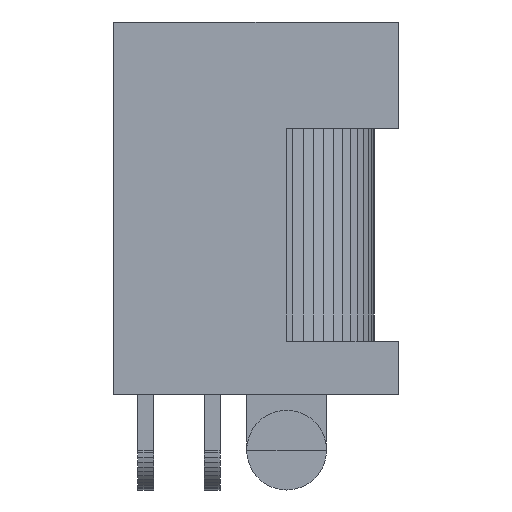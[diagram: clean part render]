
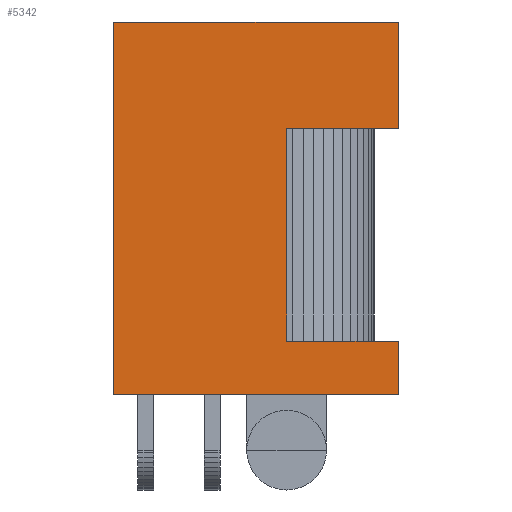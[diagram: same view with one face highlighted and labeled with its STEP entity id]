
A CAD part, front view. The second image highlights one B-rep face of the part: STEP entity #5342.
In plain terms, the highlighted planar face has unit normal (0, -1, 0).
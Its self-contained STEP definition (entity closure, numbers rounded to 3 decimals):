
#1202 = PLANE('',#1203);
#1203 = AXIS2_PLACEMENT_3D('',#1204,#1205,#1206);
#1204 = CARTESIAN_POINT('',(-6.5,-4.5,0.));
#1205 = DIRECTION('',(0.,0.,1.));
#1206 = DIRECTION('',(1.,0.,0.));
#2392 = VERTEX_POINT('',#2393);
#2393 = CARTESIAN_POINT('',(-6.5,-4.5,0.));
#2409 = PLANE('',#2410);
#2410 = AXIS2_PLACEMENT_3D('',#2411,#2412,#2413);
#2411 = CARTESIAN_POINT('',(-6.5,-4.5,0.));
#2412 = DIRECTION('',(1.,0.,0.));
#2413 = DIRECTION('',(0.,0.,1.));
#2421 = EDGE_CURVE('',#2392,#2422,#2424,.T.);
#2422 = VERTEX_POINT('',#2423);
#2423 = CARTESIAN_POINT('',(4.2,-4.5,0.));
#2424 = SURFACE_CURVE('',#2425,(#2429,#2436),.PCURVE_S1.);
#2425 = LINE('',#2426,#2427);
#2426 = CARTESIAN_POINT('',(-6.5,-4.5,0.));
#2427 = VECTOR('',#2428,1.);
#2428 = DIRECTION('',(1.,0.,0.));
#2429 = PCURVE('',#1202,#2430);
#2430 = DEFINITIONAL_REPRESENTATION('',(#2431),#2435);
#2431 = LINE('',#2432,#2433);
#2432 = CARTESIAN_POINT('',(0.,0.));
#2433 = VECTOR('',#2434,1.);
#2434 = DIRECTION('',(1.,0.));
#2435 = ( GEOMETRIC_REPRESENTATION_CONTEXT(2) 
PARAMETRIC_REPRESENTATION_CONTEXT() REPRESENTATION_CONTEXT('2D SPACE',''
  ) );
#2436 = PCURVE('',#2437,#2442);
#2437 = PLANE('',#2438);
#2438 = AXIS2_PLACEMENT_3D('',#2439,#2440,#2441);
#2439 = CARTESIAN_POINT('',(-6.5,-4.5,0.));
#2440 = DIRECTION('',(0.,1.,0.));
#2441 = DIRECTION('',(0.,0.,1.));
#2442 = DEFINITIONAL_REPRESENTATION('',(#2443),#2447);
#2443 = LINE('',#2444,#2445);
#2444 = CARTESIAN_POINT('',(0.,0.));
#2445 = VECTOR('',#2446,1.);
#2446 = DIRECTION('',(0.,1.));
#2447 = ( GEOMETRIC_REPRESENTATION_CONTEXT(2) 
PARAMETRIC_REPRESENTATION_CONTEXT() REPRESENTATION_CONTEXT('2D SPACE',''
  ) );
#2465 = PLANE('',#2466);
#2466 = AXIS2_PLACEMENT_3D('',#2467,#2468,#2469);
#2467 = CARTESIAN_POINT('',(4.2,-4.5,0.));
#2468 = DIRECTION('',(1.,0.,0.));
#2469 = DIRECTION('',(0.,0.,1.));
#5009 = EDGE_CURVE('',#2392,#5010,#5012,.T.);
#5010 = VERTEX_POINT('',#5011);
#5011 = CARTESIAN_POINT('',(-6.5,-4.5,14.));
#5012 = SURFACE_CURVE('',#5013,(#5017,#5024),.PCURVE_S1.);
#5013 = LINE('',#5014,#5015);
#5014 = CARTESIAN_POINT('',(-6.5,-4.5,0.));
#5015 = VECTOR('',#5016,1.);
#5016 = DIRECTION('',(0.,0.,1.));
#5017 = PCURVE('',#2409,#5018);
#5018 = DEFINITIONAL_REPRESENTATION('',(#5019),#5023);
#5019 = LINE('',#5020,#5021);
#5020 = CARTESIAN_POINT('',(0.,0.));
#5021 = VECTOR('',#5022,1.);
#5022 = DIRECTION('',(1.,0.));
#5023 = ( GEOMETRIC_REPRESENTATION_CONTEXT(2) 
PARAMETRIC_REPRESENTATION_CONTEXT() REPRESENTATION_CONTEXT('2D SPACE',''
  ) );
#5024 = PCURVE('',#2437,#5025);
#5025 = DEFINITIONAL_REPRESENTATION('',(#5026),#5030);
#5026 = LINE('',#5027,#5028);
#5027 = CARTESIAN_POINT('',(0.,0.));
#5028 = VECTOR('',#5029,1.);
#5029 = DIRECTION('',(1.,0.));
#5030 = ( GEOMETRIC_REPRESENTATION_CONTEXT(2) 
PARAMETRIC_REPRESENTATION_CONTEXT() REPRESENTATION_CONTEXT('2D SPACE',''
  ) );
#5070 = PLANE('',#5071);
#5071 = AXIS2_PLACEMENT_3D('',#5072,#5073,#5074);
#5072 = CARTESIAN_POINT('',(-6.5,-4.5,14.));
#5073 = DIRECTION('',(0.,0.,1.));
#5074 = DIRECTION('',(1.,0.,0.));
#5255 = PLANE('',#5256);
#5256 = AXIS2_PLACEMENT_3D('',#5257,#5258,#5259);
#5257 = CARTESIAN_POINT('',(4.2,-4.5,0.));
#5258 = DIRECTION('',(1.,0.,0.));
#5259 = DIRECTION('',(0.,0.,1.));
#5282 = PLANE('',#5283);
#5283 = AXIS2_PLACEMENT_3D('',#5284,#5285,#5286);
#5284 = CARTESIAN_POINT('',(0.,-5.,10.));
#5285 = DIRECTION('',(0.,0.,1.));
#5286 = DIRECTION('',(1.,0.,0.));
#5332 = PLANE('',#5333);
#5333 = AXIS2_PLACEMENT_3D('',#5334,#5335,#5336);
#5334 = CARTESIAN_POINT('',(0.,-5.,2.));
#5335 = DIRECTION('',(0.,0.,1.));
#5336 = DIRECTION('',(1.,0.,0.));
#5342 = ADVANCED_FACE('',(#5343),#2437,.F.);
#5343 = FACE_BOUND('',#5344,.F.);
#5344 = EDGE_LOOP('',(#5345,#5368,#5369,#5370,#5393,#5416,#5437,#5463));
#5345 = ORIENTED_EDGE('',*,*,#5346,.F.);
#5346 = EDGE_CURVE('',#2422,#5347,#5349,.T.);
#5347 = VERTEX_POINT('',#5348);
#5348 = CARTESIAN_POINT('',(4.2,-4.5,2.));
#5349 = SURFACE_CURVE('',#5350,(#5354,#5361),.PCURVE_S1.);
#5350 = LINE('',#5351,#5352);
#5351 = CARTESIAN_POINT('',(4.2,-4.5,0.));
#5352 = VECTOR('',#5353,1.);
#5353 = DIRECTION('',(0.,0.,1.));
#5354 = PCURVE('',#2437,#5355);
#5355 = DEFINITIONAL_REPRESENTATION('',(#5356),#5360);
#5356 = LINE('',#5357,#5358);
#5357 = CARTESIAN_POINT('',(0.,10.7));
#5358 = VECTOR('',#5359,1.);
#5359 = DIRECTION('',(1.,0.));
#5360 = ( GEOMETRIC_REPRESENTATION_CONTEXT(2) 
PARAMETRIC_REPRESENTATION_CONTEXT() REPRESENTATION_CONTEXT('2D SPACE',''
  ) );
#5361 = PCURVE('',#2465,#5362);
#5362 = DEFINITIONAL_REPRESENTATION('',(#5363),#5367);
#5363 = LINE('',#5364,#5365);
#5364 = CARTESIAN_POINT('',(0.,0.));
#5365 = VECTOR('',#5366,1.);
#5366 = DIRECTION('',(1.,0.));
#5367 = ( GEOMETRIC_REPRESENTATION_CONTEXT(2) 
PARAMETRIC_REPRESENTATION_CONTEXT() REPRESENTATION_CONTEXT('2D SPACE',''
  ) );
#5368 = ORIENTED_EDGE('',*,*,#2421,.F.);
#5369 = ORIENTED_EDGE('',*,*,#5009,.T.);
#5370 = ORIENTED_EDGE('',*,*,#5371,.T.);
#5371 = EDGE_CURVE('',#5010,#5372,#5374,.T.);
#5372 = VERTEX_POINT('',#5373);
#5373 = CARTESIAN_POINT('',(4.2,-4.5,14.));
#5374 = SURFACE_CURVE('',#5375,(#5379,#5386),.PCURVE_S1.);
#5375 = LINE('',#5376,#5377);
#5376 = CARTESIAN_POINT('',(-6.5,-4.5,14.));
#5377 = VECTOR('',#5378,1.);
#5378 = DIRECTION('',(1.,0.,0.));
#5379 = PCURVE('',#2437,#5380);
#5380 = DEFINITIONAL_REPRESENTATION('',(#5381),#5385);
#5381 = LINE('',#5382,#5383);
#5382 = CARTESIAN_POINT('',(14.,0.));
#5383 = VECTOR('',#5384,1.);
#5384 = DIRECTION('',(0.,1.));
#5385 = ( GEOMETRIC_REPRESENTATION_CONTEXT(2) 
PARAMETRIC_REPRESENTATION_CONTEXT() REPRESENTATION_CONTEXT('2D SPACE',''
  ) );
#5386 = PCURVE('',#5070,#5387);
#5387 = DEFINITIONAL_REPRESENTATION('',(#5388),#5392);
#5388 = LINE('',#5389,#5390);
#5389 = CARTESIAN_POINT('',(0.,0.));
#5390 = VECTOR('',#5391,1.);
#5391 = DIRECTION('',(1.,0.));
#5392 = ( GEOMETRIC_REPRESENTATION_CONTEXT(2) 
PARAMETRIC_REPRESENTATION_CONTEXT() REPRESENTATION_CONTEXT('2D SPACE',''
  ) );
#5393 = ORIENTED_EDGE('',*,*,#5394,.F.);
#5394 = EDGE_CURVE('',#5395,#5372,#5397,.T.);
#5395 = VERTEX_POINT('',#5396);
#5396 = CARTESIAN_POINT('',(4.2,-4.5,10.));
#5397 = SURFACE_CURVE('',#5398,(#5402,#5409),.PCURVE_S1.);
#5398 = LINE('',#5399,#5400);
#5399 = CARTESIAN_POINT('',(4.2,-4.5,0.));
#5400 = VECTOR('',#5401,1.);
#5401 = DIRECTION('',(0.,0.,1.));
#5402 = PCURVE('',#2437,#5403);
#5403 = DEFINITIONAL_REPRESENTATION('',(#5404),#5408);
#5404 = LINE('',#5405,#5406);
#5405 = CARTESIAN_POINT('',(0.,10.7));
#5406 = VECTOR('',#5407,1.);
#5407 = DIRECTION('',(1.,0.));
#5408 = ( GEOMETRIC_REPRESENTATION_CONTEXT(2) 
PARAMETRIC_REPRESENTATION_CONTEXT() REPRESENTATION_CONTEXT('2D SPACE',''
  ) );
#5409 = PCURVE('',#5255,#5410);
#5410 = DEFINITIONAL_REPRESENTATION('',(#5411),#5415);
#5411 = LINE('',#5412,#5413);
#5412 = CARTESIAN_POINT('',(0.,0.));
#5413 = VECTOR('',#5414,1.);
#5414 = DIRECTION('',(1.,0.));
#5415 = ( GEOMETRIC_REPRESENTATION_CONTEXT(2) 
PARAMETRIC_REPRESENTATION_CONTEXT() REPRESENTATION_CONTEXT('2D SPACE',''
  ) );
#5416 = ORIENTED_EDGE('',*,*,#5417,.F.);
#5417 = EDGE_CURVE('',#5418,#5395,#5420,.T.);
#5418 = VERTEX_POINT('',#5419);
#5419 = CARTESIAN_POINT('',(0.,-4.5,10.));
#5420 = SURFACE_CURVE('',#5421,(#5425,#5431),.PCURVE_S1.);
#5421 = LINE('',#5422,#5423);
#5422 = CARTESIAN_POINT('',(-3.25,-4.5,10.));
#5423 = VECTOR('',#5424,1.);
#5424 = DIRECTION('',(1.,0.,0.));
#5425 = PCURVE('',#2437,#5426);
#5426 = DEFINITIONAL_REPRESENTATION('',(#5427),#5430);
#5427 = B_SPLINE_CURVE_WITH_KNOTS('',1,(#5428,#5429),.UNSPECIFIED.,.F.,
  .F.,(2,2),(3.25,7.45),.PIECEWISE_BEZIER_KNOTS.);
#5428 = CARTESIAN_POINT('',(10.,6.5));
#5429 = CARTESIAN_POINT('',(10.,10.7));
#5430 = ( GEOMETRIC_REPRESENTATION_CONTEXT(2) 
PARAMETRIC_REPRESENTATION_CONTEXT() REPRESENTATION_CONTEXT('2D SPACE',''
  ) );
#5431 = PCURVE('',#5282,#5432);
#5432 = DEFINITIONAL_REPRESENTATION('',(#5433),#5436);
#5433 = B_SPLINE_CURVE_WITH_KNOTS('',1,(#5434,#5435),.UNSPECIFIED.,.F.,
  .F.,(2,2),(3.25,7.45),.PIECEWISE_BEZIER_KNOTS.);
#5434 = CARTESIAN_POINT('',(0.,0.5));
#5435 = CARTESIAN_POINT('',(4.2,0.5));
#5436 = ( GEOMETRIC_REPRESENTATION_CONTEXT(2) 
PARAMETRIC_REPRESENTATION_CONTEXT() REPRESENTATION_CONTEXT('2D SPACE',''
  ) );
#5437 = ORIENTED_EDGE('',*,*,#5438,.T.);
#5438 = EDGE_CURVE('',#5418,#5439,#5441,.T.);
#5439 = VERTEX_POINT('',#5440);
#5440 = CARTESIAN_POINT('',(0.,-4.5,2.));
#5441 = SURFACE_CURVE('',#5442,(#5446,#5452),.PCURVE_S1.);
#5442 = LINE('',#5443,#5444);
#5443 = CARTESIAN_POINT('',(0.,-4.5,1.));
#5444 = VECTOR('',#5445,1.);
#5445 = DIRECTION('',(0.,0.,-1.));
#5446 = PCURVE('',#2437,#5447);
#5447 = DEFINITIONAL_REPRESENTATION('',(#5448),#5451);
#5448 = B_SPLINE_CURVE_WITH_KNOTS('',1,(#5449,#5450),.UNSPECIFIED.,.F.,
  .F.,(2,2),(-9.,-1.),.PIECEWISE_BEZIER_KNOTS.);
#5449 = CARTESIAN_POINT('',(10.,6.5));
#5450 = CARTESIAN_POINT('',(2.,6.5));
#5451 = ( GEOMETRIC_REPRESENTATION_CONTEXT(2) 
PARAMETRIC_REPRESENTATION_CONTEXT() REPRESENTATION_CONTEXT('2D SPACE',''
  ) );
#5452 = PCURVE('',#5453,#5458);
#5453 = PLANE('',#5454);
#5454 = AXIS2_PLACEMENT_3D('',#5455,#5456,#5457);
#5455 = CARTESIAN_POINT('',(0.,-5.,2.));
#5456 = DIRECTION('',(1.,0.,0.));
#5457 = DIRECTION('',(0.,0.,1.));
#5458 = DEFINITIONAL_REPRESENTATION('',(#5459),#5462);
#5459 = B_SPLINE_CURVE_WITH_KNOTS('',1,(#5460,#5461),.UNSPECIFIED.,.F.,
  .F.,(2,2),(-9.,-1.),.PIECEWISE_BEZIER_KNOTS.);
#5460 = CARTESIAN_POINT('',(8.,-0.5));
#5461 = CARTESIAN_POINT('',(0.,-0.5));
#5462 = ( GEOMETRIC_REPRESENTATION_CONTEXT(2) 
PARAMETRIC_REPRESENTATION_CONTEXT() REPRESENTATION_CONTEXT('2D SPACE',''
  ) );
#5463 = ORIENTED_EDGE('',*,*,#5464,.T.);
#5464 = EDGE_CURVE('',#5439,#5347,#5465,.T.);
#5465 = SURFACE_CURVE('',#5466,(#5470,#5476),.PCURVE_S1.);
#5466 = LINE('',#5467,#5468);
#5467 = CARTESIAN_POINT('',(-3.25,-4.5,2.));
#5468 = VECTOR('',#5469,1.);
#5469 = DIRECTION('',(1.,0.,0.));
#5470 = PCURVE('',#2437,#5471);
#5471 = DEFINITIONAL_REPRESENTATION('',(#5472),#5475);
#5472 = B_SPLINE_CURVE_WITH_KNOTS('',1,(#5473,#5474),.UNSPECIFIED.,.F.,
  .F.,(2,2),(3.25,7.45),.PIECEWISE_BEZIER_KNOTS.);
#5473 = CARTESIAN_POINT('',(2.,6.5));
#5474 = CARTESIAN_POINT('',(2.,10.7));
#5475 = ( GEOMETRIC_REPRESENTATION_CONTEXT(2) 
PARAMETRIC_REPRESENTATION_CONTEXT() REPRESENTATION_CONTEXT('2D SPACE',''
  ) );
#5476 = PCURVE('',#5332,#5477);
#5477 = DEFINITIONAL_REPRESENTATION('',(#5478),#5481);
#5478 = B_SPLINE_CURVE_WITH_KNOTS('',1,(#5479,#5480),.UNSPECIFIED.,.F.,
  .F.,(2,2),(3.25,7.45),.PIECEWISE_BEZIER_KNOTS.);
#5479 = CARTESIAN_POINT('',(0.,0.5));
#5480 = CARTESIAN_POINT('',(4.2,0.5));
#5481 = ( GEOMETRIC_REPRESENTATION_CONTEXT(2) 
PARAMETRIC_REPRESENTATION_CONTEXT() REPRESENTATION_CONTEXT('2D SPACE',''
  ) );
